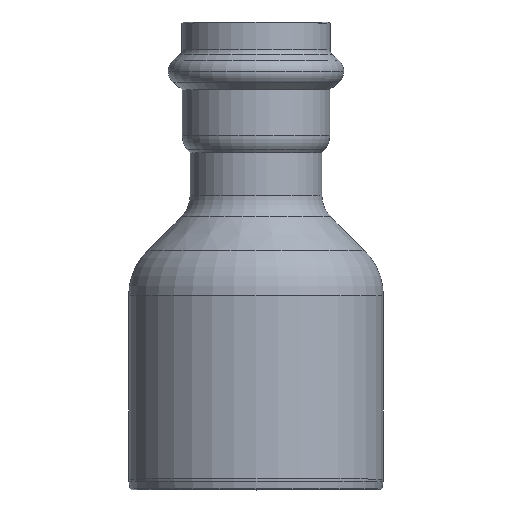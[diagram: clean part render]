
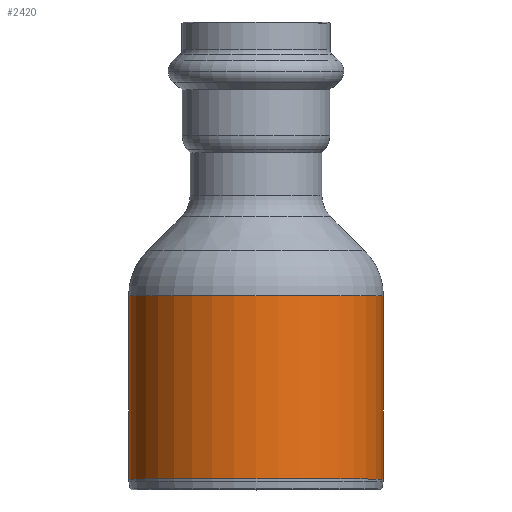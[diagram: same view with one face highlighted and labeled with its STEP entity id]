
A CAD part, top view. The second image highlights one B-rep face of the part: STEP entity #2420.
In plain terms, the highlighted cylindrical face has radius 27 mm (diameter 54 mm), a partial arc.
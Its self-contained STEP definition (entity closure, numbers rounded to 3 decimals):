
#2010=CARTESIAN_POINT('',(-202.976,33.421,0.));
#2020=DIRECTION('',(0.,-1.,0.));
#2030=DIRECTION('',(1.,0.,0.));
#2040=AXIS2_PLACEMENT_3D('',#2010,#2020,#2030);
#2050=CYLINDRICAL_SURFACE('',#2040,27.);
#2060=CARTESIAN_POINT('',(-229.976,33.421,
0.));
#2070=DIRECTION('',(0.,-1.,0.));
#2080=VECTOR('',#2070,1.);
#2090=LINE('',#2060,#2080);
#2100=CARTESIAN_POINT('',(-229.976,4.829,0.));
#2110=VERTEX_POINT('',#2100);
#2120=CARTESIAN_POINT('',(-229.976,-34.017,0.));
#2130=VERTEX_POINT('',#2120);
#2140=EDGE_CURVE('',#2110,#2130,#2090,.T.);
#2150=ORIENTED_EDGE('',*,*,#2140,.T.);
#2160=CARTESIAN_POINT('',(-202.976,4.829,0.));
#2170=DIRECTION('',(0.,-1.,0.));
#2180=DIRECTION('',(-1.,0.,0.));
#2190=AXIS2_PLACEMENT_3D('',#2160,#2170,#2180);
#2200=CIRCLE('',#2190,27.);
#2210=CARTESIAN_POINT('',(-175.976,4.829,0.));
#2220=VERTEX_POINT('',#2210);
#2230=EDGE_CURVE('',#2220,#2110,#2200,.T.);
#2240=ORIENTED_EDGE('',*,*,#2230,.T.);
#2250=CARTESIAN_POINT('',(-175.976,33.421,0.));
#2260=DIRECTION('',(0.,-1.,0.));
#2270=VECTOR('',#2260,1.);
#2280=LINE('',#2250,#2270);
#2290=CARTESIAN_POINT('',(-175.976,-34.017,0.));
#2300=VERTEX_POINT('',#2290);
#2310=EDGE_CURVE('',#2220,#2300,#2280,.T.);
#2320=ORIENTED_EDGE('',*,*,#2310,.F.);
#2330=CARTESIAN_POINT('',(-202.976,-34.017,0.));
#2340=DIRECTION('',(0.,1.,0.));
#2350=DIRECTION('',(1.,0.,0.));
#2360=AXIS2_PLACEMENT_3D('',#2330,#2340,#2350);
#2370=CIRCLE('',#2360,27.);
#2380=EDGE_CURVE('',#2130,#2300,#2370,.T.);
#2390=ORIENTED_EDGE('',*,*,#2380,.T.);
#2400=EDGE_LOOP('',(#2390,#2320,#2240,#2150));
#2410=FACE_OUTER_BOUND('',#2400,.T.);
#2420=ADVANCED_FACE('',(#2410),#2050,.T.);
